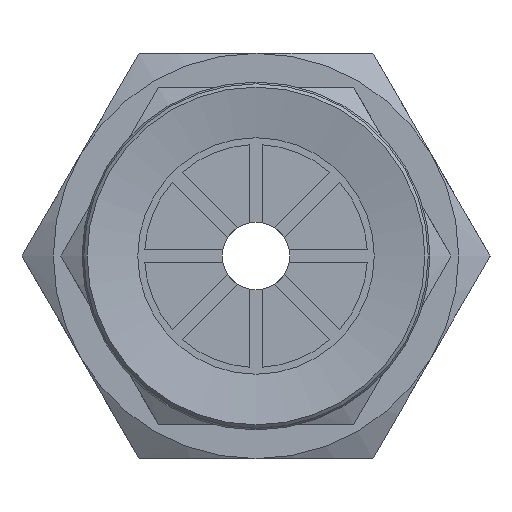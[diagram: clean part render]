
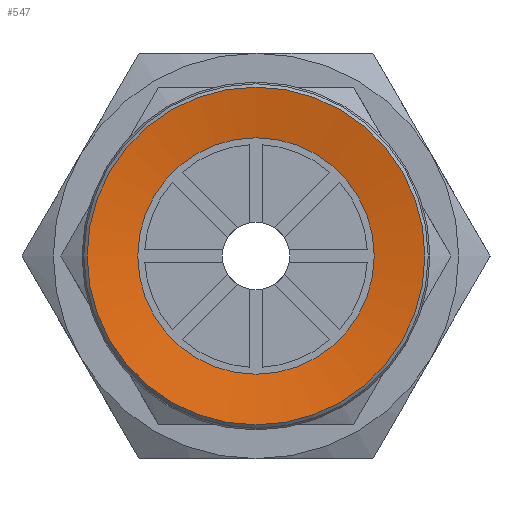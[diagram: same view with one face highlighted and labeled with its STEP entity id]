
A CAD part, front view. The second image highlights one B-rep face of the part: STEP entity #547.
In plain terms, the highlighted conical face has half-angle 80 degrees and reference radius 5 mm.
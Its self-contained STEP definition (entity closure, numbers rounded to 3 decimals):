
#547=ADVANCED_FACE('',(#827,#828),#829,.F.);
#827=FACE_BOUND('',#1194,.T.);
#828=FACE_OUTER_BOUND('',#1195,.T.);
#829=CONICAL_SURFACE('',#1196,5.0,1.396);
#1194=EDGE_LOOP('',(#1979));
#1195=EDGE_LOOP('',(#1980));
#1196=AXIS2_PLACEMENT_3D('',#1981,#1982,#1983);
#1979=ORIENTED_EDGE('',*,*,#2503,.T.);
#1980=ORIENTED_EDGE('',*,*,#2605,.F.);
#1981=CARTESIAN_POINT('',(-8.367,0.,0.513));
#1982=DIRECTION('',(0.0,0.,-1.0));
#1983=DIRECTION('',(0.0,1.0,0.));
#2503=EDGE_CURVE('',#2875,#2875,#2876,.T.);
#2605=EDGE_CURVE('',#3053,#3053,#3054,.T.);
#2875=VERTEX_POINT('',#3673);
#2876=CIRCLE('',#3674,3.5);
#3053=VERTEX_POINT('',#3909);
#3054=CIRCLE('',#3910,5.0);
#3673=CARTESIAN_POINT('',(-8.367,-3.5,0.777));
#3674=AXIS2_PLACEMENT_3D('',#4308,#4309,#4310);
#3909=CARTESIAN_POINT('',(-8.367,-5.0,0.513));
#3910=AXIS2_PLACEMENT_3D('',#4498,#4499,#4500);
#4308=CARTESIAN_POINT('',(-8.367,0.,0.777));
#4309=DIRECTION('',(0.0,0.,1.0));
#4310=DIRECTION('',(0.0,-1.0,0.));
#4498=CARTESIAN_POINT('',(-8.367,0.,0.513));
#4499=DIRECTION('',(0.0,0.,1.0));
#4500=DIRECTION('',(0.0,-1.0,0.));
